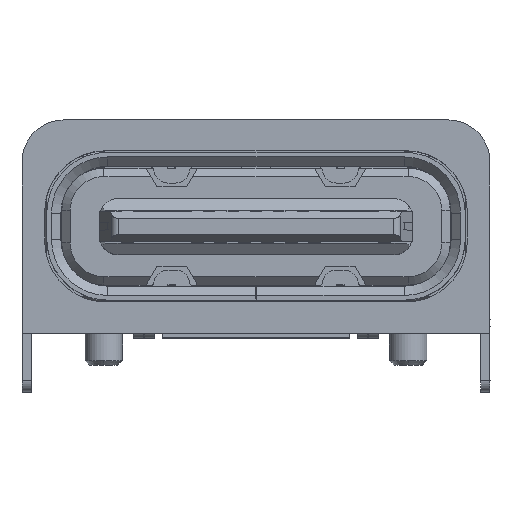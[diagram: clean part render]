
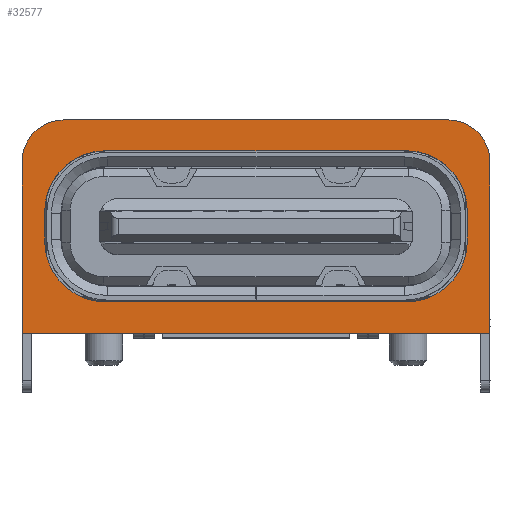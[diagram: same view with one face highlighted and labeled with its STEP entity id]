
A CAD part, top view. The second image highlights one B-rep face of the part: STEP entity #32577.
In plain terms, the highlighted planar face has unit normal (0, 0, 1).
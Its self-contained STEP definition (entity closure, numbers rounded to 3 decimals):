
#4353=DIRECTION('',(-1.,0.,0.));
#4354=VECTOR('',#4353,8.2);
#4355=CARTESIAN_POINT('',(8.57,4.86,-1.5));
#4356=LINE('',#4355,#4354);
#5023=DIRECTION('',(1.,0.,0.));
#5024=VECTOR('',#5023,10.);
#5025=CARTESIAN_POINT('',(-0.53,0.3,-1.5));
#5026=LINE('',#5025,#5024);
#10511=DIRECTION('',(0.,-1.,0.));
#10512=VECTOR('',#10511,3.66);
#10513=CARTESIAN_POINT('',(-0.53,3.96,-1.5));
#10514=LINE('',#10513,#10512);
#10531=CARTESIAN_POINT('',(0.37,3.96,-1.5));
#10532=DIRECTION('',(0.,0.,1.));
#10533=DIRECTION('',(0.,1.,0.));
#10534=AXIS2_PLACEMENT_3D('',#10531,#10532,#10533);
#10536=CARTESIAN_POINT('',(8.57,3.96,-1.5));
#10537=DIRECTION('',(0.,0.,1.));
#10538=DIRECTION('',(1.,0.,0.));
#10539=AXIS2_PLACEMENT_3D('',#10536,#10537,#10538);
#10541=CARTESIAN_POINT('',(1.255,2.9,-1.5));
#10542=DIRECTION('',(0.,0.,-1.));
#10543=DIRECTION('',(-1.,0.,0.));
#10544=AXIS2_PLACEMENT_3D('',#10541,#10542,#10543);
#10546=DIRECTION('',(0.,1.,0.));
#10547=VECTOR('',#10546,0.63);
#10548=CARTESIAN_POINT('',(-0.045,2.27,-1.5));
#10549=LINE('',#10548,#10547);
#10550=CARTESIAN_POINT('',(1.255,2.27,-1.5));
#10551=DIRECTION('',(0.,0.,-1.));
#10552=DIRECTION('',(0.,-1.,0.));
#10553=AXIS2_PLACEMENT_3D('',#10550,#10551,#10552);
#10555=DIRECTION('',(-1.,0.,0.));
#10556=VECTOR('',#10555,6.43);
#10557=CARTESIAN_POINT('',(7.685,0.97,-1.5));
#10558=LINE('',#10557,#10556);
#10559=CARTESIAN_POINT('',(7.685,2.27,-1.5));
#10560=DIRECTION('',(0.,0.,-1.));
#10561=DIRECTION('',(1.,0.,0.));
#10562=AXIS2_PLACEMENT_3D('',#10559,#10560,#10561);
#10564=CARTESIAN_POINT('',(7.685,2.9,-1.5));
#10565=DIRECTION('',(0.,0.,-1.));
#10566=DIRECTION('',(0.,1.,0.));
#10567=AXIS2_PLACEMENT_3D('',#10564,#10565,#10566);
#10569=DIRECTION('',(1.,0.,0.));
#10570=VECTOR('',#10569,6.43);
#10571=CARTESIAN_POINT('',(1.255,4.2,-1.5));
#10572=LINE('',#10571,#10570);
#10589=DIRECTION('',(0.,1.,0.));
#10590=VECTOR('',#10589,3.66);
#10591=CARTESIAN_POINT('',(9.47,0.3,-1.5));
#10592=LINE('',#10591,#10590);
#10667=DIRECTION('',(0.,1.,0.));
#10668=VECTOR('',#10667,0.63);
#10669=CARTESIAN_POINT('',(8.985,2.27,-1.5));
#10670=LINE('',#10669,#10668);
#16963=CARTESIAN_POINT('',(7.685,0.97,-1.5));
#16964=VERTEX_POINT('',#16963);
#16965=CARTESIAN_POINT('',(1.255,0.97,-1.5));
#16966=VERTEX_POINT('',#16965);
#17026=CARTESIAN_POINT('',(-0.045,2.27,-1.5));
#17027=VERTEX_POINT('',#17026);
#17028=CARTESIAN_POINT('',(-0.045,2.9,-1.5));
#17030=VERTEX_POINT('',#17028);
#17032=CARTESIAN_POINT('',(1.255,4.2,-1.5));
#17033=VERTEX_POINT('',#17032);
#17034=CARTESIAN_POINT('',(7.685,4.2,-1.5));
#17035=VERTEX_POINT('',#17034);
#17036=CARTESIAN_POINT('',(0.37,4.86,-1.5));
#17037=CARTESIAN_POINT('',(-0.53,3.96,-1.5));
#17038=VERTEX_POINT('',#17036);
#17039=VERTEX_POINT('',#17037);
#17040=CARTESIAN_POINT('',(8.57,4.86,-1.5));
#17041=VERTEX_POINT('',#17040);
#17042=CARTESIAN_POINT('',(9.47,3.96,-1.5));
#17043=VERTEX_POINT('',#17042);
#17044=CARTESIAN_POINT('',(9.47,0.3,-1.5));
#17045=VERTEX_POINT('',#17044);
#17046=CARTESIAN_POINT('',(-0.53,0.3,-1.5));
#17047=VERTEX_POINT('',#17046);
#17048=CARTESIAN_POINT('',(8.985,2.27,-1.5));
#17049=VERTEX_POINT('',#17048);
#17050=CARTESIAN_POINT('',(8.985,2.9,-1.5));
#17051=VERTEX_POINT('',#17050);
#32548=CARTESIAN_POINT('',(4.47,2.58,-1.5));
#32549=DIRECTION('',(0.,0.,1.));
#32550=DIRECTION('',(1.,0.,0.));
#32551=AXIS2_PLACEMENT_3D('',#32548,#32549,#32550);
#32552=PLANE('',#32551);
#32553=ORIENTED_EDGE('',*,*,#32540,.F.);
#32554=ORIENTED_EDGE('',*,*,#24403,.F.);
#32556=ORIENTED_EDGE('',*,*,#32555,.F.);
#32558=ORIENTED_EDGE('',*,*,#32557,.F.);
#32559=ORIENTED_EDGE('',*,*,#25229,.F.);
#32560=ORIENTED_EDGE('',*,*,#32528,.F.);
#32561=EDGE_LOOP('',(#32553,#32554,#32556,#32558,#32559,#32560));
#32562=FACE_OUTER_BOUND('',#32561,.F.);
#32563=ORIENTED_EDGE('',*,*,#24217,.F.);
#32564=ORIENTED_EDGE('',*,*,#24202,.F.);
#32565=ORIENTED_EDGE('',*,*,#24187,.F.);
#32566=ORIENTED_EDGE('',*,*,#23865,.F.);
#32568=ORIENTED_EDGE('',*,*,#32567,.F.);
#32570=ORIENTED_EDGE('',*,*,#32569,.T.);
#32572=ORIENTED_EDGE('',*,*,#32571,.F.);
#32574=ORIENTED_EDGE('',*,*,#32573,.F.);
#32575=EDGE_LOOP('',(#32563,#32564,#32565,#32566,#32568,#32570,#32572,#32574));
#32576=FACE_BOUND('',#32575,.F.);
#32577=ADVANCED_FACE('',(#32562,#32576),#32552,.T.);
#10535=CIRCLE('',#10534,0.9);
#10540=CIRCLE('',#10539,0.9);
#10545=CIRCLE('',#10544,1.3);
#10554=CIRCLE('',#10553,1.3);
#10563=CIRCLE('',#10562,1.3);
#10568=CIRCLE('',#10567,1.3);
#23865=EDGE_CURVE('',#16964,#16966,#10558,.T.);
#24187=EDGE_CURVE('',#16966,#17027,#10554,.T.);
#24202=EDGE_CURVE('',#17027,#17030,#10549,.T.);
#24217=EDGE_CURVE('',#17030,#17033,#10545,.T.);
#24403=EDGE_CURVE('',#17041,#17038,#4356,.T.);
#25229=EDGE_CURVE('',#17047,#17045,#5026,.T.);
#32528=EDGE_CURVE('',#17039,#17047,#10514,.T.);
#32540=EDGE_CURVE('',#17038,#17039,#10535,.T.);
#32555=EDGE_CURVE('',#17043,#17041,#10540,.T.);
#32557=EDGE_CURVE('',#17045,#17043,#10592,.T.);
#32567=EDGE_CURVE('',#17049,#16964,#10563,.T.);
#32569=EDGE_CURVE('',#17049,#17051,#10670,.T.);
#32571=EDGE_CURVE('',#17035,#17051,#10568,.T.);
#32573=EDGE_CURVE('',#17033,#17035,#10572,.T.);
